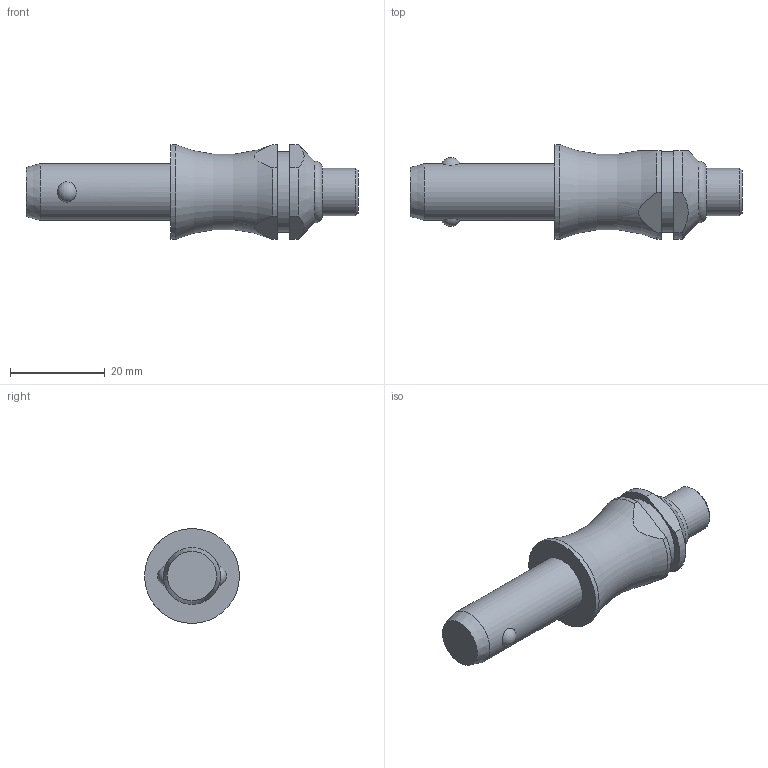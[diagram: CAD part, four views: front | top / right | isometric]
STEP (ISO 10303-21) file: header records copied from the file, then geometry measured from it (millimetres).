
FILE_DESCRIPTION( ( 'STEP AP203' ), '1' );
FILE_NAME( 'C:/Temp/Ganter_Step_05_03_2020/data/3_1/gn113_3/Stainless Steel-Ball lock pin GN 113.3-12-20 (deactivated).stp', '2020-03-12T08:18:40', ( 'License CC BY-ND 4.0' ), ( 'CADENAS' ), ' ', 'PARTsolutions', ' ' );
FILE_SCHEMA( ( 'CONFIG_CONTROL_DESIGN' ) );
Length unit declared in the file: millimetre
Products named in the file (1): _Stainless Steel-Ball lock pin GN 113.3-12-20 (deactivated)
Bounding box: 70.1 x 20 x 20 mm (x, y, z)
Volume: 11399.5 mm3; surface area: 3715.9 mm2
Topology: 1 solids, 1 shells, 28 faces, 60 edges, 39 vertices
Faces by surface type: plane 11, cylinder 10, cone 3, torus 2, sphere 2
Full cylindrical faces by diameter (mm): 10 x1, 12 x1, 17 x1, 20 x1
Entity records: 954 total; most frequent: CARTESIAN_POINT 338, DIRECTION 122, ORIENTED_EDGE 98, AXIS2_PLACEMENT_3D 52, EDGE_CURVE 49, EDGE_LOOP 42, VERTEX_POINT 38, FACE_OUTER_BOUND 34
